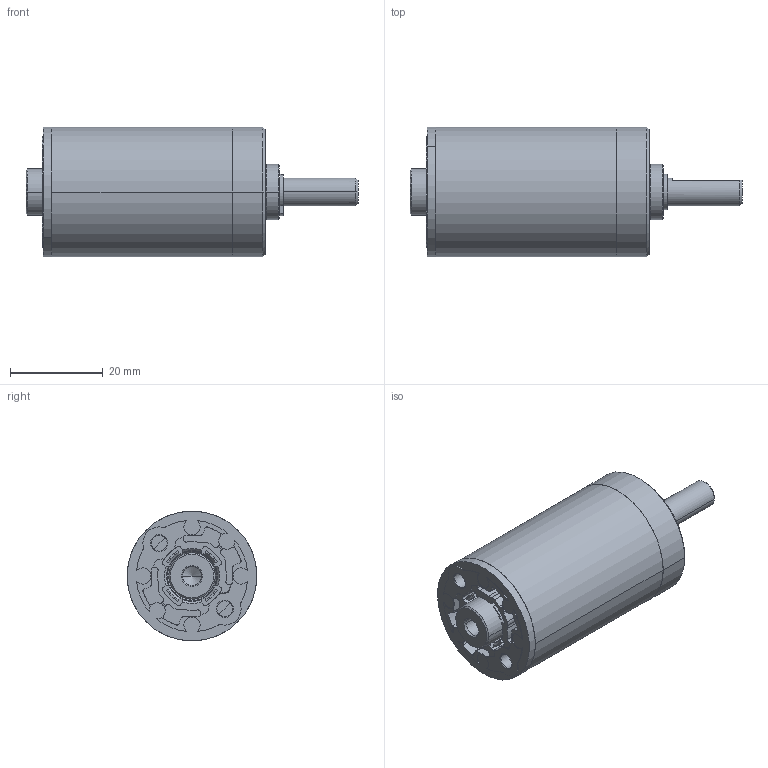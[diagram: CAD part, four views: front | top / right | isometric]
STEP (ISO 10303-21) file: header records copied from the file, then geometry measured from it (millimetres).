
FILE_DESCRIPTION((''),'2;1');
FILE_NAME('IMS28_ECO_MAX_LN_3_STAGE_ASM','2023-07-27T09:23:13',('mhummel'),(''),'CREO PARAMETRIC BY PTC INC, 2020184','CREO PARAMETRIC BY PTC INC, 2020184','');
FILE_SCHEMA(('AUTOMOTIVE_DESIGN { 1 0 10303 214 1 1 1 1 }'));
Length unit declared in the file: millimetre
Products named in the file (11): IMS28_ECO_MAX_LN_BEARING_FLANGE; IMS28_ECO_MAX_LN_SI_BEARING; IMS28_ECO_MAX_LN_RING_GEAR_3ST; IMS28_ECO_MAX_LN_MOTOR_FLANGE; IMS28_ECO_MAX_LN_SHAFT_RAW_AF0; IMS28_ECO_MAX_LN_SHAFT_ASM; IMS28_ECO_MAX_LN_RETAINING_RING; IMS28_ECO_MAX_LN_THRUST_WASHER; IMS28_ECO_MAX_LN_MO_PINION_LONG; IMS28_ECO_MAX_LN_MP_SHORT; IMS28_ECO_MAX_LN_3_STAGE_ASM
Assembly tree (10 placements, depth 3):
  IMS28_ECO_MAX_LN_3_STAGE_ASM
    IMS28_ECO_MAX_LN_BEARING_FLANGE
    IMS28_ECO_MAX_LN_SI_BEARING
    IMS28_ECO_MAX_LN_RING_GEAR_3ST
    IMS28_ECO_MAX_LN_MOTOR_FLANGE
    IMS28_ECO_MAX_LN_SHAFT_ASM
      IMS28_ECO_MAX_LN_SHAFT_RAW_AF0
    IMS28_ECO_MAX_LN_RETAINING_RING
    IMS28_ECO_MAX_LN_THRUST_WASHER
    IMS28_ECO_MAX_LN_MO_PINION_LONG
    IMS28_ECO_MAX_LN_MP_SHORT
Bounding box: 71.5 x 27.95 x 27.95 mm (x, y, z)
Volume: 13595.6 mm3; surface area: 15530.2 mm2
Topology: 9 solids, 9 shells, 457 faces, 1176 edges, 739 vertices
Faces by surface type: cylinder 230, plane 105, cone 70, torus 46, sphere 6
Entity records: 18239 total; most frequent: DIRECTION 2712, CARTESIAN_POINT 2616, ORIENTED_EDGE 2316, EDGE_CURVE 1158, PRESENTATION_STYLE_ASSIGNMENT 1154, STYLED_ITEM 1154, CURVE_STYLE 1146, AXIS2_PLACEMENT_3D 1119
